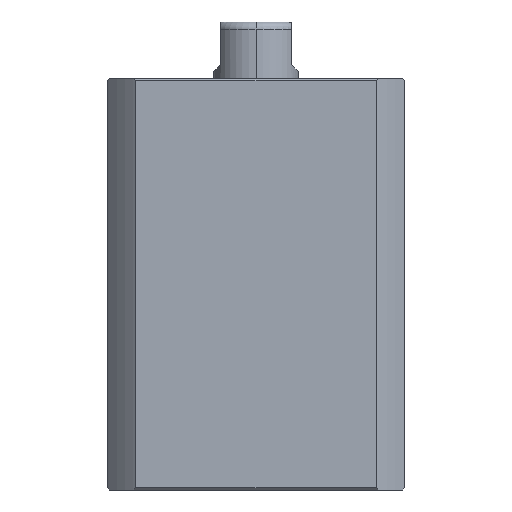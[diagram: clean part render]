
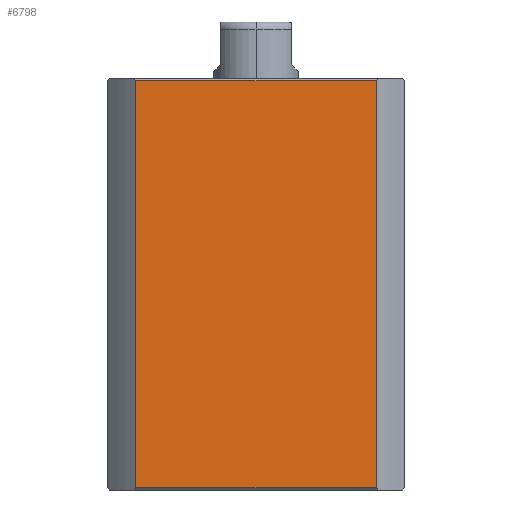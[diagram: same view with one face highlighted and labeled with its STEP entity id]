
A CAD part, left-side view. The second image highlights one B-rep face of the part: STEP entity #6798.
In plain terms, the highlighted planar face has unit normal (-1, 0, 0).
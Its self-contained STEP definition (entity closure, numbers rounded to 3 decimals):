
#356 = VERTEX_POINT ( 'NONE', #873 ) ;
#873 = CARTESIAN_POINT ( 'NONE',  ( -21., 16.971, 0.3 ) ) ;
#1189 = ORIENTED_EDGE ( 'NONE', *, *, #10071, .T. ) ;
#2126 = ORIENTED_EDGE ( 'NONE', *, *, #2431, .F. ) ;
#2411 = AXIS2_PLACEMENT_3D ( 'NONE', #11306, #9518, #4113 ) ;
#2431 = EDGE_CURVE ( 'NONE', #4223, #4584, #7280, .T. ) ;
#2763 = LINE ( 'NONE', #4265, #4899 ) ;
#3815 = DIRECTION ( 'NONE',  ( 0., 0., -1. ) ) ;
#4113 = DIRECTION ( 'NONE',  ( 0., 1., 0. ) ) ;
#4223 = VERTEX_POINT ( 'NONE', #6214 ) ;
#4265 = CARTESIAN_POINT ( 'NONE',  ( -21., 21., 0.3 ) ) ;
#4584 = VERTEX_POINT ( 'NONE', #6512 ) ;
#4707 = CARTESIAN_POINT ( 'NONE',  ( -21., 16.971, 57.7 ) ) ;
#4899 = VECTOR ( 'NONE', #10599, 1000. ) ;
#5001 = PLANE ( 'NONE',  #2411 ) ;
#5007 = EDGE_CURVE ( 'NONE', #356, #5250, #8080, .T. ) ;
#5250 = VERTEX_POINT ( 'NONE', #4707 ) ;
#5564 = ORIENTED_EDGE ( 'NONE', *, *, #5007, .F. ) ;
#5805 = ORIENTED_EDGE ( 'NONE', *, *, #8391, .T. ) ;
#6214 = CARTESIAN_POINT ( 'NONE',  ( -21., -16.971, 57.7 ) ) ;
#6512 = CARTESIAN_POINT ( 'NONE',  ( -21., -16.971, 0.3 ) ) ;
#6771 = DIRECTION ( 'NONE',  ( 0., 0., 1. ) ) ;
#6798 = ADVANCED_FACE ( 'NONE', ( #7721 ), #5001, .F. ) ;
#7270 = DIRECTION ( 'NONE',  ( 0., 1., 0. ) ) ;
#7280 = LINE ( 'NONE', #11047, #11237 ) ;
#7651 = CARTESIAN_POINT ( 'NONE',  ( -21., 16.971, -42. ) ) ;
#7721 = FACE_OUTER_BOUND ( 'NONE', #9354, .T. ) ;
#8080 = LINE ( 'NONE', #7651, #10204 ) ;
#8169 = CARTESIAN_POINT ( 'NONE',  ( -21., 21., 57.7 ) ) ;
#8391 = EDGE_CURVE ( 'NONE', #356, #4584, #2763, .T. ) ;
#8707 = LINE ( 'NONE', #8169, #10821 ) ;
#9354 = EDGE_LOOP ( 'NONE', ( #5564, #5805, #2126, #1189 ) ) ;
#9518 = DIRECTION ( 'NONE',  ( 1., 0., 0. ) ) ;
#10071 = EDGE_CURVE ( 'NONE', #4223, #5250, #8707, .T. ) ;
#10204 = VECTOR ( 'NONE', #6771, 1000. ) ;
#10599 = DIRECTION ( 'NONE',  ( 0., -1., 0. ) ) ;
#10821 = VECTOR ( 'NONE', #7270, 1000. ) ;
#11047 = CARTESIAN_POINT ( 'NONE',  ( -21., -16.971, -42. ) ) ;
#11237 = VECTOR ( 'NONE', #3815, 1000. ) ;
#11306 = CARTESIAN_POINT ( 'NONE',  ( -21., 21., 58. ) ) ;
